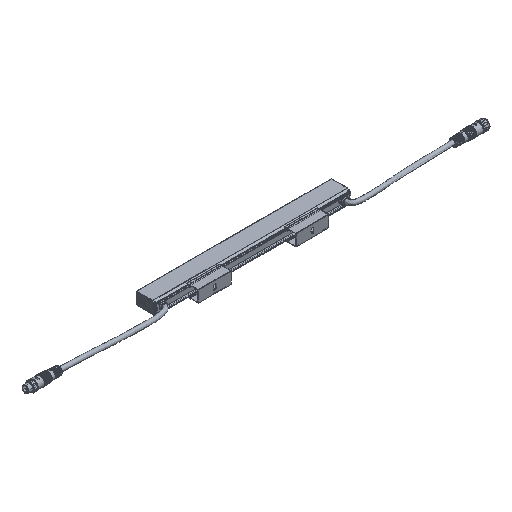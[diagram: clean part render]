
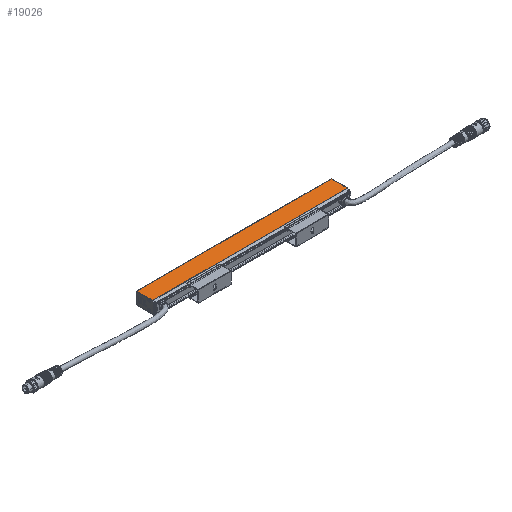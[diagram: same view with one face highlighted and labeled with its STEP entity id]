
A CAD part, isometric view. The second image highlights one B-rep face of the part: STEP entity #19026.
In plain terms, the highlighted planar face has unit normal (0, 0, 1).
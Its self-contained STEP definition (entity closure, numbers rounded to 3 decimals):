
#1491 = CARTESIAN_POINT ( 'NONE',  ( -149.5, 0., 9.15 ) ) ;
#2006 = LINE ( 'NONE', #5098, #21684 ) ;
#2924 = DIRECTION ( 'NONE',  ( 0., 1., 0. ) ) ;
#5098 = CARTESIAN_POINT ( 'NONE',  ( 148., 20.786, 9.15 ) ) ;
#5758 = ORIENTED_EDGE ( 'NONE', *, *, #7538, .T. ) ;
#6201 = VERTEX_POINT ( 'NONE', #10889 ) ;
#6440 = DIRECTION ( 'NONE',  ( 1., 0., 0. ) ) ;
#6738 = LINE ( 'NONE', #51233, #24379 ) ;
#7015 = DIRECTION ( 'NONE',  ( 0., -1., 0. ) ) ;
#7242 = VERTEX_POINT ( 'NONE', #19081 ) ;
#7538 = EDGE_CURVE ( 'NONE', #51708, #7242, #38471, .T. ) ;
#8307 = CARTESIAN_POINT ( 'NONE',  ( 148., 45.5, 9.15 ) ) ;
#9248 = VERTEX_POINT ( 'NONE', #50922 ) ;
#10309 = AXIS2_PLACEMENT_3D ( 'NONE', #24290, #19648, #42165 ) ;
#10889 = CARTESIAN_POINT ( 'NONE',  ( -149.5, 20.786, 9.15 ) ) ;
#12170 = VERTEX_POINT ( 'NONE', #31979 ) ;
#13778 = EDGE_CURVE ( 'NONE', #47911, #9248, #6738, .T. ) ;
#17384 = VECTOR ( 'NONE', #40518, 1000. ) ;
#18159 = EDGE_CURVE ( 'NONE', #7242, #6201, #50389, .T. ) ;
#18317 = CARTESIAN_POINT ( 'NONE',  ( -148., 45.5, 9.15 ) ) ;
#19026 = ADVANCED_FACE ( 'NONE', ( #19926 ), #29299, .F. ) ;
#19081 = CARTESIAN_POINT ( 'NONE',  ( -149.5, 45.5, 9.15 ) ) ;
#19648 = DIRECTION ( 'NONE',  ( 0., 0., -1. ) ) ;
#19926 = FACE_OUTER_BOUND ( 'NONE', #38055, .T. ) ;
#20334 = VECTOR ( 'NONE', #21201, 1000. ) ;
#21201 = DIRECTION ( 'NONE',  ( -1., 0., 0. ) ) ;
#21684 = VECTOR ( 'NONE', #52324, 1000. ) ;
#22690 = CARTESIAN_POINT ( 'NONE',  ( 148., 45.5, 9.15 ) ) ;
#23799 = CARTESIAN_POINT ( 'NONE',  ( 149.5, 20.786, 9.15 ) ) ;
#24013 = ORIENTED_EDGE ( 'NONE', *, *, #18159, .T. ) ;
#24290 = CARTESIAN_POINT ( 'NONE',  ( 148., 0., 9.15 ) ) ;
#24379 = VECTOR ( 'NONE', #2924, 1000. ) ;
#26672 = EDGE_CURVE ( 'NONE', #47911, #6201, #2006, .T. ) ;
#27836 = CARTESIAN_POINT ( 'NONE',  ( -148., 45.5, 9.15 ) ) ;
#28990 = LINE ( 'NONE', #27836, #47966 ) ;
#29299 = PLANE ( 'NONE',  #10309 ) ;
#31979 = CARTESIAN_POINT ( 'NONE',  ( 148., 45.5, 9.15 ) ) ;
#38055 = EDGE_LOOP ( 'NONE', ( #48248, #5758, #24013, #54459, #38660, #56353 ) ) ;
#38471 = LINE ( 'NONE', #8307, #20334 ) ;
#38660 = ORIENTED_EDGE ( 'NONE', *, *, #13778, .T. ) ;
#40518 = DIRECTION ( 'NONE',  ( -1., 0., 0. ) ) ;
#41088 = EDGE_CURVE ( 'NONE', #9248, #12170, #49925, .T. ) ;
#42165 = DIRECTION ( 'NONE',  ( 0., 1., 0. ) ) ;
#47911 = VERTEX_POINT ( 'NONE', #23799 ) ;
#47966 = VECTOR ( 'NONE', #6440, 1000. ) ;
#48248 = ORIENTED_EDGE ( 'NONE', *, *, #55841, .F. ) ;
#48683 = VECTOR ( 'NONE', #7015, 1000. ) ;
#49925 = LINE ( 'NONE', #22690, #17384 ) ;
#50389 = LINE ( 'NONE', #1491, #48683 ) ;
#50922 = CARTESIAN_POINT ( 'NONE',  ( 149.5, 45.5, 9.15 ) ) ;
#51233 = CARTESIAN_POINT ( 'NONE',  ( 149.5, 50.842, 9.15 ) ) ;
#51708 = VERTEX_POINT ( 'NONE', #18317 ) ;
#52324 = DIRECTION ( 'NONE',  ( -1., 0., 0. ) ) ;
#54459 = ORIENTED_EDGE ( 'NONE', *, *, #26672, .F. ) ;
#55841 = EDGE_CURVE ( 'NONE', #51708, #12170, #28990, .T. ) ;
#56353 = ORIENTED_EDGE ( 'NONE', *, *, #41088, .T. ) ;
